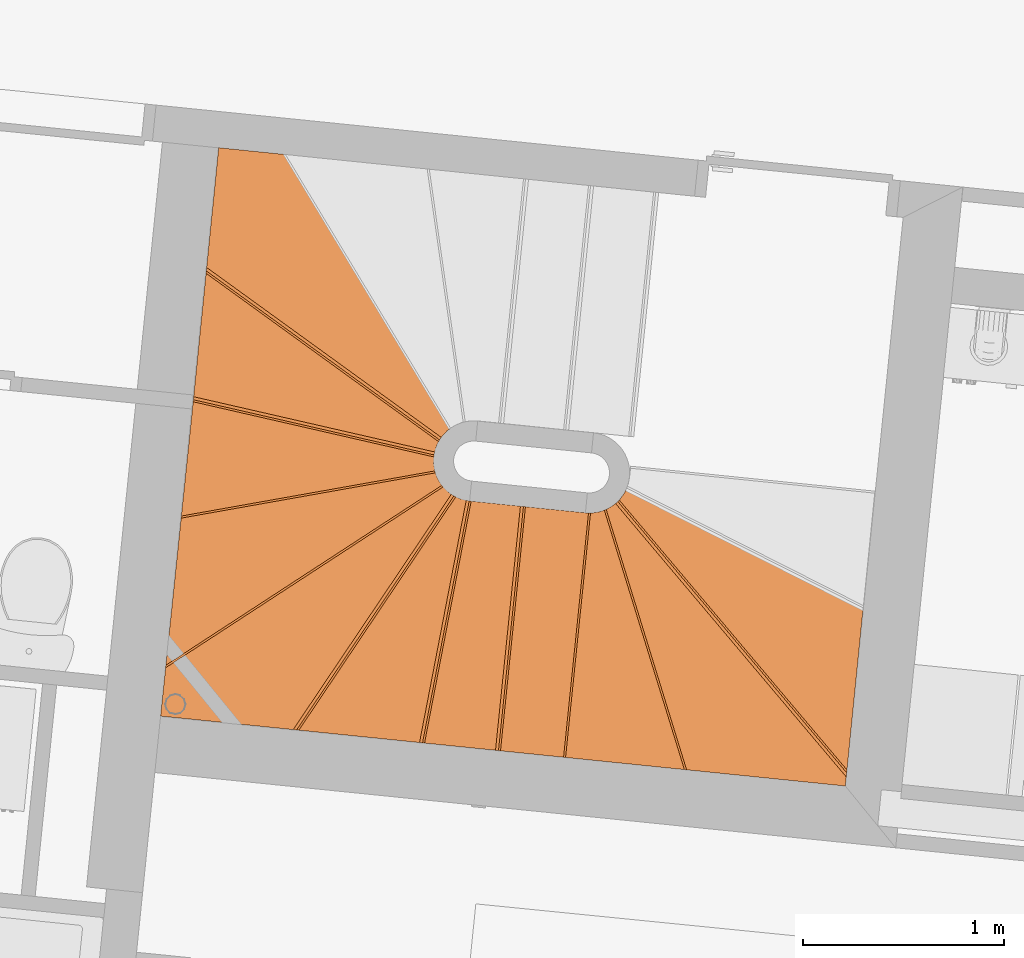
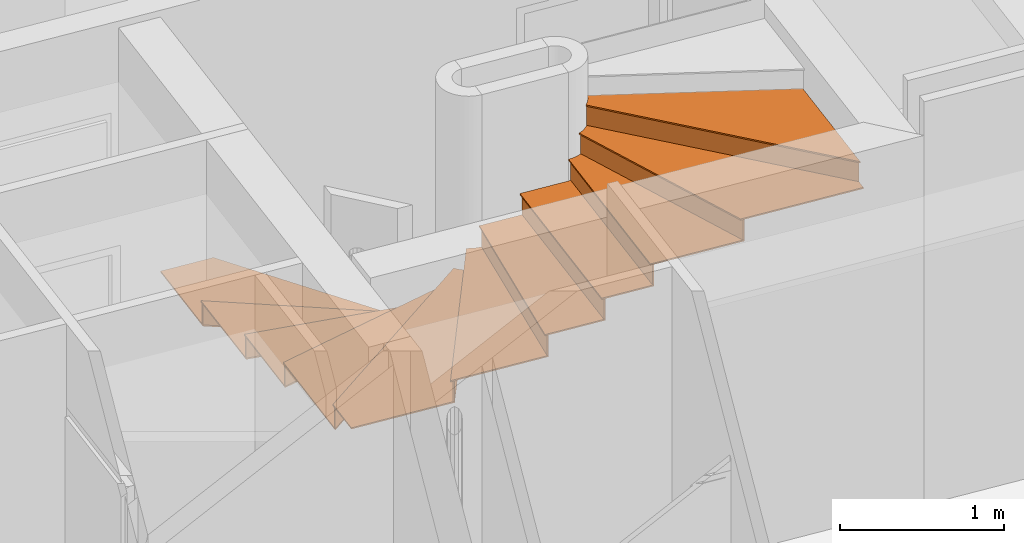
# One storey, part 169 of 171: 21 proxies, 1 element without a shape of its own.
"""IFC2X3 building model written with IfcOpenShell, lengths in millimetres."""

import ifcopenshell
import ifcopenshell.guid

model = None  # the IFC model being written
_history = None  # IfcOwnerHistory: only IFC2X3 demands one
_inside = {}  # id of a spatial element -> (the spatial element, [elements in it])
_under = {}  # id of a project, library or spatial element -> (it, [spatial elements below it])
_declared = {}  # id of a project -> (the project, [libraries it declares])
_typed = {}  # id of a type object -> (the type object, [elements of that type])
_made_of = {}  # id of a material, layer set ... -> (it, [elements and type objects made of it])


def new_model(schema):
    """Start an empty IFC model of exactly this schema.

    Asked for "IFC4X3", IfcOpenShell would pick the latest addendum, in which some entities
    have other attributes; the version numbers below select the first issue.
    IFC2X3 requires an IfcOwnerHistory on every rooted entity: one is made here for all.
    """
    global model, _history
    if schema == "IFC4X3":
        model = ifcopenshell.file(schema_version=(4, 3, 0, 0))
    else:
        model = ifcopenshell.file(schema=schema)
    _inside.clear()
    _under.clear()
    _declared.clear()
    _typed.clear()
    _made_of.clear()
    _history = None
    if model.schema == "IFC2X3":
        org = make("IfcOrganization", Name="unknown")
        user = make(
            "IfcPersonAndOrganization",
            ThePerson=make("IfcPerson", FamilyName="unknown"),
            TheOrganization=org,
        )
        app = make(
            "IfcApplication",
            ApplicationDeveloper=org,
            Version="unknown",
            ApplicationFullName="unknown",
            ApplicationIdentifier="unknown",
        )
        _history = make(
            "IfcOwnerHistory",
            OwningUser=user,
            OwningApplication=app,
            ChangeAction="ADDED",
            CreationDate=0,
        )
    return model


def make(cls, **values):
    """One entity of the class cls with the attributes given. An attribute that is None is left unset."""
    return model.create_entity(
        cls, **{name: value for name, value in values.items() if value is not None}
    )


def entity(cls, *values):
    """Any entity or typed value of the class cls, its attributes in the order of the schema. None: left unset."""
    e = model.create_entity(cls)
    for i, value in enumerate(values):
        if value is not None:
            e[i] = value
    return e


def rooted(cls, **values):
    """An entity with a GlobalId (a new one), such as an element, a storey or a relation."""
    return make(cls, GlobalId=ifcopenshell.guid.new(), OwnerHistory=_history, **values)


def si_unit(unit_type, name, prefix=None):
    """IfcSIUnit, for example si_unit("LENGTHUNIT", "METRE", prefix="MILLI")."""
    return make("IfcSIUnit", UnitType=unit_type, Prefix=prefix, Name=name)


def converted_unit(unit_type, name, factor, base, dimensions=None, offset=None):
    """IfcConversionBasedUnit, such as the inch: factor (a typed value) times the base unit."""
    return make(
        "IfcConversionBasedUnit"
        if offset is None
        else "IfcConversionBasedUnitWithOffset",
        ConversionOffset=offset,
        Dimensions=None
        if dimensions is None
        else entity("IfcDimensionalExponents", *dimensions),
        UnitType=unit_type,
        Name=name,
        ConversionFactor=make(
            "IfcMeasureWithUnit", ValueComponent=factor, UnitComponent=base
        ),
    )


def derived_unit(unit_type, elements):
    """IfcDerivedUnit: a product of units, each with its exponent."""
    return make(
        "IfcDerivedUnit",
        Elements=[
            make("IfcDerivedUnitElement", Unit=unit, Exponent=power)
            for unit, power in elements
        ],
        UnitType=unit_type,
    )


def money_unit(currency):
    """IfcMonetaryUnit."""
    return make("IfcMonetaryUnit", Currency=currency)


def assignment(units):
    """IfcUnitAssignment: the units of a project."""
    return None if units is None else make("IfcUnitAssignment", Units=units)


def point(xyz):
    """IfcCartesianPoint."""
    return None if xyz is None else make("IfcCartesianPoint", Coordinates=xyz)


def direction(xyz):
    """IfcDirection."""
    return None if xyz is None else make("IfcDirection", DirectionRatios=xyz)


def frame(location, z_axis=None, x_axis=None):
    """IfcAxis2Placement3D, a coordinate frame: its origin and axes. An axis left out is left unset."""
    return make(
        "IfcAxis2Placement3D",
        Location=point(location),
        Axis=direction(z_axis),
        RefDirection=direction(x_axis),
    )


def origin_with_axes():
    """The frame at (0, 0, 0) with the z axis (0, 0, 1) and the x axis (1, 0, 0) written out."""
    return frame((0.0, 0.0, 0.0), z_axis=(0.0, 0.0, 1.0), x_axis=(1.0, 0.0, 0.0))


def place(relative_to, where):
    """IfcLocalPlacement: puts the frame where relative to a parent placement (None: the world)."""
    return make(
        "IfcLocalPlacement", PlacementRelTo=relative_to, RelativePlacement=where
    )


def context(
    kind, dimensions, precision=None, world=None, true_north=None, identifier=None
):
    """IfcGeometricRepresentationContext, for example the 3D "Model" context."""
    return make(
        "IfcGeometricRepresentationContext",
        ContextIdentifier=identifier,
        ContextType=kind,
        CoordinateSpaceDimension=dimensions,
        Precision=precision,
        WorldCoordinateSystem=world,
        TrueNorth=true_north,
    )


def subcontext(parent, identifier, kind, view, scale=None):
    """IfcGeometricRepresentationSubContext, for example "Body" below "Model"."""
    return make(
        "IfcGeometricRepresentationSubContext",
        ContextIdentifier=identifier,
        ContextType=kind,
        ParentContext=parent,
        TargetScale=scale,
        TargetView=view,
    )


def project(units=None, contexts=None):
    """IfcProject with its units and contexts."""
    return rooted(
        "IfcProject",
        Name="project",
        RepresentationContexts=contexts,
        UnitsInContext=assignment(units),
    )


def spatial(cls, under=None, at=None, **own):
    """A site, building, storey or space (cls), placed at a placement, below another one or the project."""
    s = rooted(cls, ObjectPlacement=at, **own)
    if under is not None:
        _under.setdefault(under.id(), (under, []))[1].append(s)
    return s


def faces_of(points, faces, orient=None, outer=None):
    """IfcFace entities. A face is a list of loops; a loop is a list of indices into points, from 0.

    orient and outer hold one flag for each loop. By default every Orientation is true, the
    first loop of a face is its IfcFaceOuterBound and the others are IfcFaceBound.
    """
    made = []
    for i, loops in enumerate(faces):
        bounds = []
        for j, loop in enumerate(loops):
            is_outer = j == 0 if outer is None else outer[i][j]
            bounds.append(
                make(
                    "IfcFaceOuterBound" if is_outer else "IfcFaceBound",
                    Bound=make("IfcPolyLoop", Polygon=[points[k] for k in loop]),
                    Orientation=True if orient is None else orient[i][j],
                )
            )
        made.append(make("IfcFace", Bounds=bounds))
    return made


def faceted_brep(points, faces, orient=None, outer=None, voids=None):
    """IfcFacetedBrep: a solid bounded by flat faces; with voids (closed shells), ...WithVoids."""
    shared = [point(p) for p in points]
    hull = make("IfcClosedShell", CfsFaces=faces_of(shared, faces, orient, outer))
    if voids is None:
        return make("IfcFacetedBrep", Outer=hull)
    return make(
        "IfcFacetedBrepWithVoids",
        Outer=hull,
        Voids=[
            make(cls, CfsFaces=faces_of(shared, fs, o, b)) for cls, fs, o, b in voids
        ],
    )


def shape(context_of_items, identifier, shape_type, items):
    """IfcShapeRepresentation: the items that make up one representation, for example the "Body"."""
    return make(
        "IfcShapeRepresentation",
        ContextOfItems=context_of_items,
        RepresentationIdentifier=identifier,
        RepresentationType=shape_type,
        Items=items,
    )


def material(Name=None, Category=None):
    """IfcMaterial."""
    return make("IfcMaterial", Name=Name, Category=Category)


def made_of(thing, what):
    """Note that an element or type object is made of a material, layer set ...; save() writes the relation."""
    if what is not None:
        _made_of.setdefault(what.id(), (what, []))[1].append(thing)
    return thing


def type_object(cls, material=None, **own):
    """A type object (cls), such as IfcWallType, which elements share."""
    return made_of(rooted(cls, **own), material)


def element(
    cls,
    number,
    at=None,
    inside=None,
    cuts=None,
    type_object=None,
    material=None,
    context=None,
    identifier="Body",
    shape_type=None,
    held_by="IfcProductDefinitionShape",
    body=None,
    shapes=None,
    **own,
):
    """One element of the class cls, such as IfcWall. Its Tag is "e" and its number.

    at: its placement. inside: the storey or other place that contains it. cuts: it is an
    opening in that element (IfcRelVoidsElement). A single representation is given by context,
    identifier, shape_type and body (its items); several are given by shapes. held_by: the class
    of the entity that holds the representations. save() writes the other relations.
    """
    e = rooted(cls, Tag="e%d" % number, ObjectPlacement=at, **own)
    if body is not None:
        shapes = [shape(context, identifier, shape_type, body)]
    if shapes is not None:
        e.Representation = make(held_by, Representations=shapes)
    if inside is not None:
        _inside.setdefault(inside.id(), (inside, []))[1].append(e)
    if cuts is not None:
        rooted(
            "IfcRelVoidsElement", RelatingBuildingElement=cuts, RelatedOpeningElement=e
        )
    if type_object is not None:
        _typed.setdefault(type_object.id(), (type_object, []))[1].append(e)
    return made_of(e, material)


def aggregate(whole, parts):
    """IfcRelAggregates: a whole, such as a stair, and the parts it consists of."""
    return rooted("IfcRelAggregates", RelatingObject=whole, RelatedObjects=parts)


def save(model, path):
    """Write the relations noted so far, then the file.

    IfcRelAggregates (storeys below a building ...), IfcRelContainedInSpatialStructure (elements
    in a storey), IfcRelDefinesByType, IfcRelAssociatesMaterial and IfcRelDeclares: one each for
    every whole, place, type object, material and project.
    """
    for whole, parts in _under.values():
        aggregate(whole, parts)
    for where, things in _inside.values():
        rooted(
            "IfcRelContainedInSpatialStructure",
            RelatedElements=things,
            RelatingStructure=where,
        )
    for kind, things in _typed.values():
        rooted("IfcRelDefinesByType", RelatedObjects=things, RelatingType=kind)
    for what, things in _made_of.values():
        rooted("IfcRelAssociatesMaterial", RelatedObjects=things, RelatingMaterial=what)
    for by, libraries in _declared.values():
        rooted("IfcRelDeclares", RelatingContext=by, RelatedDefinitions=libraries)
    model.write(path)


model = new_model("IFC2X3")

# Units and contexts
model_context = context("Model", 3, precision=0.01, world=origin_with_axes(), true_north=direction((0.0, 1.0)))
body_context = subcontext(model_context, "Body", "Model", "MODEL_VIEW")
ifc_project = project(units=[si_unit("LENGTHUNIT", "METRE", prefix="MILLI"), si_unit("AREAUNIT", "SQUARE_METRE"), si_unit("VOLUMEUNIT", "CUBIC_METRE"), converted_unit("PLANEANGLEUNIT", "DEGREE", entity("IfcPlaneAngleMeasure", 0.0174532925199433), si_unit("PLANEANGLEUNIT", "RADIAN"), dimensions=[0, 0, 0, 0, 0, 0, 0]), money_unit("USD"), converted_unit("TIMEUNIT", "Year", entity("IfcTimeMeasure", 31557600.0), si_unit("TIMEUNIT", "SECOND"), dimensions=[0, 0, 1, 0, 0, 0, 0]), si_unit("MASSUNIT", "GRAM", prefix="KILO"), si_unit("THERMODYNAMICTEMPERATUREUNIT", "DEGREE_CELSIUS"), si_unit("LUMINOUSINTENSITYUNIT", "LUMEN"), si_unit("ENERGYUNIT", "JOULE", prefix="MEGA"), derived_unit("THERMALCONDUCTANCEUNIT", [(si_unit("POWERUNIT", "WATT"), 1), (si_unit("LENGTHUNIT", "METRE"), -1), (si_unit("THERMODYNAMICTEMPERATUREUNIT", "KELVIN"), -1)]), derived_unit("SPECIFICHEATCAPACITYUNIT", [(si_unit("ENERGYUNIT", "JOULE"), 1), (si_unit("MASSUNIT", "GRAM", prefix="KILO"), -1), (si_unit("THERMODYNAMICTEMPERATUREUNIT", "KELVIN"), -1)]), derived_unit("MASSDENSITYUNIT", [(si_unit("MASSUNIT", "GRAM", prefix="KILO"), 1), (si_unit("VOLUMEUNIT", "CUBIC_METRE"), -1)])], contexts=[model_context])

# Site, building, storey
site_placement = place(None, origin_with_axes())
site = spatial("IfcSite", under=ifc_project, at=site_placement, Name="Site", CompositionType="ELEMENT")
building_placement = place(site_placement, origin_with_axes())
building = spatial("IfcBuilding", under=site, at=building_placement, Name="Bâtiment", CompositionType="ELEMENT")
storey_placement = place(building_placement, frame((0.0, 0.0, 3000.0), z_axis=(0.0, 0.0, 1.0), x_axis=(1.0, 0.0, 0.0)))
storey = spatial("IfcBuildingStorey", under=building, at=storey_placement, Name="rdc", CompositionType="ELEMENT", Elevation=3000.0)

# Stair, proxies
stair_placement = place(storey_placement, frame((2227388.475510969, -615472.1219328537, 0.0), z_axis=(0.0, 0.0, 1.0), x_axis=(-0.9948232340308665, 0.1016205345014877, 0.0)))
stair = element("IfcStair", 1, at=stair_placement, inside=storey, Name="ESC-020", ShapeType="NOTDEFINED")
ifc_material = material(Name="Lame d'air 275581351")
building_element_proxy_type = type_object("IfcBuildingElementProxyType", Name="IfcBuildingElementProxy", PredefinedType="NOTDEFINED")
proxy_1_placement = place(stair_placement, frame((1479.28594708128, -205.939345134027, 960.588235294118), z_axis=(0.0, 0.0, 1.0), x_axis=(0.8653853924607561, -0.5011068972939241, 0.0)))
proxy_1 = element("IfcBuildingElementProxy", 2, at=proxy_1_placement, type_object=building_element_proxy_type, material=ifc_material, Name="C-MARCHE-337", context=body_context, shape_type="Brep", body=[
    faceted_brep([(821.0010736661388, 14.99999999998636, 0.0), (815.1882107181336, 24.99999999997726, 0.0), (-611.3159759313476, 25.00000000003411, 0.0), (-610.5635345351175, 14.99999999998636, 0.0), (821.0010736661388, 14.99999999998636, -151.764705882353), (815.1882107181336, 24.99999999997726, -151.764705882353), (-611.3159759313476, 25.00000000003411, -151.764705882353), (-610.5635345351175, 14.99999999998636, -151.764705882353)], [[[0, 1, 2, 3]], [[0, 4, 5, 1]], [[1, 5, 6, 2]], [[3, 2, 6, 7]], [[4, 0, 3, 7]], [[5, 4, 7, 6]]]),
])
proxy_2_placement = place(stair_placement, frame((1582.14598069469, 100.163084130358, 1122.35294117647), z_axis=(0.0, 0.0, 1.0), x_axis=(0.9923864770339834, -0.123162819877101, 0.0)))
proxy_2 = element("IfcBuildingElementProxy", 3, at=proxy_2_placement, type_object=building_element_proxy_type, material=ifc_material, Name="C-MARCHE-338", context=body_context, shape_type="Brep", body=[
    faceted_brep([(616.9148624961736, 15.00000000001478, 0.0), (615.6568410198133, 25.00000000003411, 0.0), (-611.3159759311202, 25.00000000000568, 0.0), (-610.5635345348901, 15.0000000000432, 0.0), (616.9148624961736, 15.00000000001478, -151.7647058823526), (615.6568410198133, 25.00000000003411, -151.7647058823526), (-611.3159759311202, 25.00000000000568, -151.7647058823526), (-610.5635345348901, 15.0000000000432, -151.7647058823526)], [[[0, 1, 2, 3]], [[0, 4, 5, 1]], [[1, 5, 6, 2]], [[3, 2, 6, 7]], [[4, 0, 3, 7]], [[5, 4, 7, 6]]]),
])
proxy_3_placement = place(stair_placement, frame((1557.233341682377, 422.1230880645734, 1284.117647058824), z_axis=(0.0, 0.0, 1.0), x_axis=(0.9616268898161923, 0.2743605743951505, 0.0)))
proxy_3 = element("IfcBuildingElementProxy", 4, at=proxy_3_placement, type_object=building_element_proxy_type, material=ifc_material, Name="C-MARCHE-339", context=body_context, shape_type="Brep", body=[
    faceted_brep([(669.3900729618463, 15.00000000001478, 0.0), (672.2592924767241, 25.00000000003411, 0.0), (-611.3159759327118, 25.00000000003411, 0.0), (-610.5635345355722, 14.99999999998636, 0.0), (669.3900729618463, 15.00000000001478, -151.7647058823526), (672.2592924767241, 25.00000000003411, -151.7647058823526), (-611.3159759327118, 25.00000000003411, -151.7647058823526), (-610.5635345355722, 14.99999999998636, -151.7647058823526)], [[[0, 1, 2, 3]], [[0, 4, 5, 1]], [[1, 5, 6, 2]], [[3, 2, 6, 7]], [[4, 0, 3, 7]], [[5, 4, 7, 6]]]),
])
proxy_4_placement = place(stair_placement, frame((1408.508417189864, 708.7583624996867, 1445.882352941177), z_axis=(0.0, 0.0, 1.0), x_axis=(0.7779965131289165, 0.6282685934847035, 0.0)))
proxy_4 = element("IfcBuildingElementProxy", 5, at=proxy_4_placement, type_object=building_element_proxy_type, material=ifc_material, Name="C-MARCHE-340", context=body_context, shape_type="Brep", body=[
    faceted_brep([(1026.802065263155, 15.0000000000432, 0.0), (1034.902198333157, 25.00000000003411, 0.0), (-611.3159759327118, 25.00000000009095, 0.0), (-610.5635345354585, 15.0000000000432, 0.0), (1026.802065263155, 15.0000000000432, -151.7647058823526), (1034.902198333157, 25.00000000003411, -151.7647058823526), (-611.3159759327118, 25.00000000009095, -151.7647058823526), (-610.5635345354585, 15.0000000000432, -151.7647058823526)], [[[0, 1, 2, 3]], [[0, 4, 5, 1]], [[1, 5, 6, 2]], [[3, 2, 6, 7]], [[4, 0, 3, 7]], [[5, 4, 7, 6]]]),
])
proxy_5_placement = place(stair_placement, frame((1159.614157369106, 914.5022108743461, 1607.647058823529), z_axis=(0.0, 0.0, 1.0), x_axis=(0.4706872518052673, 0.8823001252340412, 0.0)))
proxy_5 = element("IfcBuildingElementProxy", 6, at=proxy_5_placement, type_object=building_element_proxy_type, material=ifc_material, Name="C-MARCHE-341", context=body_context, shape_type="Brep", body=[
    faceted_brep([(791.4159478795, 15.00000000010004, 0.0), (786.0811756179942, 25.00000000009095, 0.0), (-611.3159759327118, 25.00000000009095, 0.0), (-610.5635345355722, 14.99999999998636, 0.0), (791.4159478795, 15.00000000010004, -151.7647058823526), (786.0811756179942, 25.00000000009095, -151.7647058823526), (-611.3159759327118, 25.00000000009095, -151.7647058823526), (-610.5635345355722, 14.99999999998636, -151.7647058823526)], [[[0, 1, 2, 3]], [[0, 4, 5, 1]], [[1, 5, 6, 2]], [[3, 2, 6, 7]], [[4, 0, 3, 7]], [[5, 4, 7, 6]]]),
])
proxy_6_placement = place(stair_placement, frame((850.1175319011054, 1006.647327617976, 1769.411764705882), z_axis=(0.0, 0.0, 1.0), x_axis=(0.0885523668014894, 0.9960715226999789, 0.0)))
proxy_6 = element("IfcBuildingElementProxy", 7, at=proxy_6_placement, type_object=building_element_proxy_type, material=ifc_material, Name="C-MARCHE-342", context=body_context, shape_type="Brep", body=[
    faceted_brep([(614.2665554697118, 14.99999999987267, 0.0), (613.3775413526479, 24.99999999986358, 0.0), (-611.3159759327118, 24.99999999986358, 0.0), (-610.563534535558, 14.99999999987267, 0.0), (614.2665554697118, 14.99999999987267, -151.7647058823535), (613.3775413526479, 24.99999999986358, -151.7647058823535), (-611.3159759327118, 24.99999999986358, -151.7647058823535), (-610.563534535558, 14.99999999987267, -151.7647058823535)], [[[0, 1, 2, 3]], [[0, 4, 5, 1]], [[1, 5, 6, 2]], [[3, 2, 6, 7]], [[4, 0, 3, 7]], [[5, 4, 7, 6]]]),
])
proxy_7_placement = place(stair_placement, frame((525.1110302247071, 1009.8291097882, 1931.176470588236), z_axis=(0.0, 0.0, 1.0), x_axis=(2.014278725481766e-07, 0.9999999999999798, 0.0)))
proxy_7 = element("IfcBuildingElementProxy", 8, at=proxy_7_placement, type_object=building_element_proxy_type, material=ifc_material, Name="C-MARCHE-343", context=body_context, shape_type="Brep", body=[
    faceted_brep([(609.9999999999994, 14.99999999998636, 0.0), (610.0000000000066, 24.99999999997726, 0.0), (-610.0000000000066, 24.99999999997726, 0.0), (-609.9999999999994, 14.99999999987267, 0.0), (609.9999999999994, 14.99999999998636, -151.7647058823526), (610.0000000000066, 24.99999999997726, -151.7647058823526), (-610.0000000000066, 24.99999999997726, -151.7647058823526), (-609.9999999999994, 14.99999999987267, -151.7647058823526)], [[[0, 1, 2, 3]], [[0, 4, 5, 1]], [[1, 5, 6, 2]], [[3, 2, 6, 7]], [[4, 0, 3, 7]], [[5, 4, 7, 6]]]),
])
proxy_8_placement = place(stair_placement, frame((200.0104641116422, 1009.829175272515, 2092.941176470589), z_axis=(0.0, 0.0, 1.0), x_axis=(2.014278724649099e-07, 0.9999999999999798, 0.0)))
proxy_8 = element("IfcBuildingElementProxy", 9, at=proxy_8_placement, type_object=building_element_proxy_type, material=ifc_material, Name="C-MARCHE-344", context=body_context, shape_type="Brep", body=[
    faceted_brep([(609.9999927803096, 15.00000000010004, 0.0), (609.9999879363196, 25.00000000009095, 0.0), (-611.3039816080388, 25.00000000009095, 0.0), (-610.5563633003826, 15.00000000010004, 0.0), (609.9999927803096, 15.00000000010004, -151.7647058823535), (609.9999879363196, 25.00000000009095, -151.7647058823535), (-611.3039816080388, 25.00000000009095, -151.7647058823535), (-610.5563633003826, 15.00000000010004, -151.7647058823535)], [[[0, 1, 2, 3]], [[0, 4, 5, 1]], [[1, 5, 6, 2]], [[3, 2, 6, 7]], [[4, 0, 3, 7]], [[5, 4, 7, 6]]]),
])
proxy_9_placement = place(stair_placement, frame((-116.4375896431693, 945.4901224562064, 2254.705882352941), z_axis=(0.0, 0.0, 1.0), x_axis=(-0.3905995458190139, 0.9205606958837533, 0.0)))
proxy_9 = element("IfcBuildingElementProxy", 10, at=proxy_9_placement, type_object=building_element_proxy_type, material=ifc_material, Name="C-MARCHE-345", context=body_context, shape_type="Brep", body=[
    faceted_brep([(738.8951906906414, 14.99999999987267, 0.0), (743.1382486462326, 24.99999999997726, 0.0), (-611.3159759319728, 24.99999999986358, 0.0), (-610.5635345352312, 14.99999999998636, 0.0), (738.8951906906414, 14.99999999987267, -151.7647058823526), (743.1382486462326, 24.99999999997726, -151.7647058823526), (-611.3159759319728, 24.99999999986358, -151.7647058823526), (-610.5635345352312, 14.99999999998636, -151.7647058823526)], [[[0, 1, 2, 3]], [[0, 4, 5, 1]], [[1, 5, 6, 2]], [[3, 2, 6, 7]], [[4, 0, 3, 7]], [[5, 4, 7, 6]]]),
])
proxy_10_placement = place(stair_placement, frame((-382.5948050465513, 762.6261828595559, 2416.470588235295), z_axis=(0.0, 0.0, 1.0), x_axis=(-0.7192233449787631, 0.6947789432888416, 0.0)))
proxy_10 = element("IfcBuildingElementProxy", 11, at=proxy_10_placement, type_object=building_element_proxy_type, material=ifc_material, Name="C-MARCHE-346", context=body_context, shape_type="Brep", body=[
    faceted_brep([(1153.599827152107, 14.99999999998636, 0.0), (1143.900879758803, 24.99999999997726, 0.0), (-611.315975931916, 24.99999999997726, 0.0), (-610.5635345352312, 14.99999999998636, 0.0), (1153.599827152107, 14.99999999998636, -151.7647058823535), (1143.900879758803, 24.99999999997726, -151.7647058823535), (-611.315975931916, 24.99999999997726, -151.7647058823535), (-610.5635345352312, 14.99999999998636, -151.7647058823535)], [[[0, 1, 2, 3]], [[0, 4, 5, 1]], [[1, 5, 6, 2]], [[3, 2, 6, 7]], [[4, 0, 3, 7]], [[5, 4, 7, 6]]]),
])
proxy_11_placement = place(stair_placement, frame((1265.005003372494, -447.5227900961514, 808.8235294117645), z_axis=(0.0, 0.0, 1.0), x_axis=(0.600813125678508, -0.7993895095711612, 0.0)))
proxy_11 = element("IfcBuildingElementProxy", 12, at=proxy_11_placement, type_object=building_element_proxy_type, material=ifc_material, Name="MARCHE-336", context=body_context, shape_type="Brep", body=[
    faceted_brep([(-609.9999999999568, 0.0, -9.999999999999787), (966.3343994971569, 0.0, -9.999999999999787), (966.3343994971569, 0.0, 0.0), (-609.9999999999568, 0.0, 0.0), (-613.0741059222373, 34.92373452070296, -9.999999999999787), (-622.2018820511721, 68.77341787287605, -9.999999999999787), (-637.1026110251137, 100.5080304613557, -9.999999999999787), (676.2483896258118, 657.9541897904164, -9.999999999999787), (1178.253624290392, 281.9611071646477, -9.999999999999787), (1178.253624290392, 281.9611071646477, 0.0), (676.2483896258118, 657.9541897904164, 0.0), (-637.1026110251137, 100.5080304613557, 0.0), (-622.2018820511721, 68.77341787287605, 0.0), (-613.0741059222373, 34.92373452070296, 0.0)], [[[0, 1, 2, 3]], [[0, 4, 5, 6, 7, 8, 1]], [[1, 8, 9, 2]], [[3, 2, 9, 10, 11, 12, 13]], [[4, 0, 3, 13]], [[5, 4, 13, 12]], [[6, 5, 12, 11]], [[7, 6, 11, 10]], [[8, 7, 10, 9]]]),
])
proxy_12_placement = place(stair_placement, frame((1479.28594708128, -205.939345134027, 970.5882352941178), z_axis=(0.0, 0.0, 1.0), x_axis=(0.8653853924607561, -0.5011068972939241, 0.0)))
proxy_12 = element("IfcBuildingElementProxy", 13, at=proxy_12_placement, type_object=building_element_proxy_type, material=ifc_material, Name="MARCHE-337", context=body_context, shape_type="Brep", body=[
    faceted_brep([(-610.0000000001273, 0.0, -9.999999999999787), (829.7203680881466, 0.0, -9.999999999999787), (829.7203680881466, 0.0, 0.0), (-610.0000000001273, 0.0, 0.0), (-615.4656237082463, 46.42674873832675, -9.999999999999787), (-631.5636368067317, 90.31490221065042, -9.999999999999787), (-637.1026110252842, 100.5080304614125, -9.999999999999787), (492.5768707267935, 579.995606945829, -9.999999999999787), (492.5768707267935, 579.995606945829, 0.0), (-637.1026110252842, 100.5080304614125, 0.0), (-631.5636368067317, 90.31490221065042, 0.0), (-615.4656237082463, 46.42674873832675, 0.0)], [[[0, 1, 2, 3]], [[0, 4, 5, 6, 7, 1]], [[1, 7, 8, 2]], [[3, 2, 8, 9, 10, 11]], [[4, 0, 3, 11]], [[5, 4, 11, 10]], [[6, 5, 10, 9]], [[7, 6, 9, 8]]]),
])
proxy_13_placement = place(stair_placement, frame((1582.14598069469, 100.163084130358, 1132.352941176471), z_axis=(0.0, 0.0, 1.0), x_axis=(0.9923864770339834, -0.123162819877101, 0.0)))
proxy_13 = element("IfcBuildingElementProxy", 14, at=proxy_13_placement, type_object=building_element_proxy_type, material=ifc_material, Name="MARCHE-338", context=body_context, shape_type="Brep", body=[
    faceted_brep([(-609.9999999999, 0.0, -9.999999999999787), (618.8018947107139, 0.0, -9.999999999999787), (618.8018947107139, 0.0, 0.0), (-609.9999999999, 0.0, 0.0), (-610.4531617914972, 13.45295387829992, -9.999999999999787), (-618.7562293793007, 58.51773040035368, -9.999999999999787), (-637.1026110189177, 100.5080304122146, -9.999999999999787), (544.6802479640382, 602.1106604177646, -9.999999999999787), (606.7813705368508, 95.55102515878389, -9.999999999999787), (606.7813705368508, 95.55102515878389, 0.0), (544.6802479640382, 602.1106604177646, 0.0), (-637.1026110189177, 100.5080304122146, 0.0), (-618.7562293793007, 58.51773040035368, 0.0), (-610.4531617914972, 13.45295387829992, 0.0)], [[[0, 1, 2, 3]], [[0, 4, 5, 6, 7, 8, 1]], [[1, 8, 9, 2]], [[3, 2, 9, 10, 11, 12, 13]], [[4, 0, 3, 13]], [[5, 4, 13, 12]], [[6, 5, 12, 11]], [[7, 6, 11, 10]], [[8, 7, 10, 9]]]),
])
proxy_14_placement = place(stair_placement, frame((1408.508417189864, 708.7583624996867, 1455.882352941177), z_axis=(0.0, 0.0, 1.0), x_axis=(0.7779965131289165, 0.6282685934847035, 0.0)))
proxy_14 = element("IfcBuildingElementProxy", 15, at=proxy_14_placement, type_object=building_element_proxy_type, material=ifc_material, Name="MARCHE-340", context=body_context, shape_type="Brep", body=[
    faceted_brep([(-609.9999999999, 0.0, -9.999999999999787), (1014.651865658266, 0.0, -9.999999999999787), (1014.651865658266, 0.0, 0.0), (-609.9999999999, 0.0, 0.0), (-613.0741059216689, 34.92373449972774, -9.999999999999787), (-622.2018820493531, 68.77341783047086, -9.999999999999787), (-637.1026110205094, 100.5080303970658, -9.999999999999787), (649.4549417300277, 646.5818266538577, -9.999999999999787), (1186.861356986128, 212.6008175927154, -9.999999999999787), (1186.861356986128, 212.6008175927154, 0.0), (649.4549417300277, 646.5818266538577, 0.0), (-637.1026110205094, 100.5080303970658, 0.0), (-622.2018820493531, 68.77341783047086, 0.0), (-613.0741059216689, 34.92373449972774, 0.0)], [[[0, 1, 2, 3]], [[0, 4, 5, 6, 7, 8, 1]], [[1, 8, 9, 2]], [[3, 2, 9, 10, 11, 12, 13]], [[4, 0, 3, 13]], [[5, 4, 13, 12]], [[6, 5, 12, 11]], [[7, 6, 11, 10]], [[8, 7, 10, 9]]]),
])
proxy_15_placement = place(stair_placement, frame((1159.614157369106, 914.5022108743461, 1617.647058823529), z_axis=(0.0, 0.0, 1.0), x_axis=(0.4706872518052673, 0.8823001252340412, 0.0)))
proxy_15 = element("IfcBuildingElementProxy", 16, at=proxy_15_placement, type_object=building_element_proxy_type, material=ifc_material, Name="MARCHE-341", context=body_context, shape_type="Brep", body=[
    faceted_brep([(-610.0000000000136, 1.13686837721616e-10, -9.999999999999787), (799.4181062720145, 0.0, -9.999999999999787), (799.4181062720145, 0.0, 0.0), (-610.0000000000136, 1.13686837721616e-10, 0.0), (-615.9716663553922, 48.49727697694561, -9.999999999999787), (-633.5299051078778, 94.09722133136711, -9.999999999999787), (-636.9781155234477, 100.5608719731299, -9.999999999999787), (490.4787422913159, 579.1050654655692, -9.999999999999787), (490.4787422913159, 579.1050654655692, 0.0), (-636.9781155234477, 100.5608719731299, 0.0), (-633.5299051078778, 94.09722133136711, 0.0), (-615.9716663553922, 48.49727697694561, 0.0)], [[[0, 1, 2, 3]], [[0, 4, 5, 6, 7, 1]], [[1, 7, 8, 2]], [[3, 2, 8, 9, 10, 11]], [[4, 0, 3, 11]], [[5, 4, 11, 10]], [[6, 5, 10, 9]], [[7, 6, 9, 8]]]),
])
proxy_16_placement = place(stair_placement, frame((1557.233341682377, 422.1230880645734, 1294.117647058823), z_axis=(0.0, 0.0, 1.0), x_axis=(0.9616268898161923, 0.2743605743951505, 0.0)))
proxy_16 = element("IfcBuildingElementProxy", 17, at=proxy_16_placement, type_object=building_element_proxy_type, material=ifc_material, Name="MARCHE-339", context=body_context, shape_type="Brep", body=[
    faceted_brep([(-610.0000000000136, 0.0, -9.999999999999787), (665.0862436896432, 0.0, -9.999999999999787), (665.0862436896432, 0.0, 0.0), (-610.0000000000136, 0.0, 0.0), (-613.0741059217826, 34.92373449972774, -9.999999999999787), (-622.2018820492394, 68.77341783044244, -9.999999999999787), (-637.1026110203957, 100.5080303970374, -9.999999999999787), (878.4983008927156, 743.798291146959, -9.999999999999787), (878.4983008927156, 743.798291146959, 0.0), (-637.1026110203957, 100.5080303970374, 0.0), (-622.2018820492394, 68.77341783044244, 0.0), (-613.0741059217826, 34.92373449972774, 0.0)], [[[0, 1, 2, 3]], [[0, 4, 5, 6, 7, 1]], [[1, 7, 8, 2]], [[3, 2, 8, 9, 10, 11]], [[4, 0, 3, 11]], [[5, 4, 11, 10]], [[6, 5, 10, 9]], [[7, 6, 9, 8]]]),
])
proxy_17_placement = place(stair_placement, frame((850.1175319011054, 1006.647327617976, 1779.411764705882), z_axis=(0.0, 0.0, 1.0), x_axis=(0.0885523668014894, 0.9960715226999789, 0.0)))
proxy_17 = element("IfcBuildingElementProxy", 18, at=proxy_17_placement, type_object=building_element_proxy_type, material=ifc_material, Name="MARCHE-342", context=body_context, shape_type="Brep", body=[
    faceted_brep([(-609.9999999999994, -1.13686837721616e-10, -9.999999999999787), (615.6000766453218, 0.0, -9.999999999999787), (615.6000766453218, 0.0, 0.0), (-609.9999999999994, -1.13686837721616e-10, 0.0), (-610.7853563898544, 17.70287107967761, -9.999999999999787), (-635.4282562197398, 294.896442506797, -9.999999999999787), (579.7790232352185, 402.9300852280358, -9.999999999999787), (604.4219230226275, 125.7365142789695, -9.999999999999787), (604.4219230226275, 125.7365142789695, 0.0), (579.7790232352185, 402.9300852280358, 0.0), (-635.4282562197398, 294.896442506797, 0.0), (-610.7853563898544, 17.70287107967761, 0.0)], [[[0, 1, 2, 3]], [[0, 4, 5, 6, 7, 1]], [[1, 7, 8, 2]], [[3, 2, 8, 9, 10, 11]], [[4, 0, 3, 11]], [[5, 4, 11, 10]], [[6, 5, 10, 9]], [[7, 6, 9, 8]]]),
])
proxy_18_placement = place(stair_placement, frame((525.1110302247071, 1009.8291097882, 1941.176470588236), z_axis=(0.0, 0.0, 1.0), x_axis=(2.014278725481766e-07, 0.9999999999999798, 0.0)))
proxy_18 = element("IfcBuildingElementProxy", 19, at=proxy_18_placement, type_object=building_element_proxy_type, material=ifc_material, Name="MARCHE-343", context=body_context, shape_type="Brep", body=[
    faceted_brep([(-609.9999999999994, -1.13686837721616e-10, -9.999999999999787), (609.9999999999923, 0.0, -9.999999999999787), (609.9999999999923, 0.0, 0.0), (-609.9999999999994, -1.13686837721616e-10, 0.0), (-609.9999999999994, 325.1962593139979, -9.999999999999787), (-611.5572991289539, 350.1005661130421, -9.999999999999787), (609.9999879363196, 350.1005661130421, -9.999999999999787), (609.9999999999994, 325.1961787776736, -9.999999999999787), (609.9999999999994, 325.1961787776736, 0.0), (609.9999879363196, 350.1005661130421, 0.0), (-611.5572991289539, 350.1005661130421, 0.0), (-609.9999999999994, 325.1962593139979, 0.0)], [[[0, 1, 2, 3]], [[0, 4, 5, 6, 7, 1]], [[1, 7, 8, 2]], [[3, 2, 8, 9, 10, 11]], [[4, 0, 3, 11]], [[5, 4, 11, 10]], [[6, 5, 10, 9]], [[7, 6, 9, 8]]]),
])
proxy_19_placement = place(stair_placement, frame((-382.5948050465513, 762.6261828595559, 2426.470588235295), z_axis=(0.0, 0.0, 1.0), x_axis=(-0.7192233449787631, 0.6947789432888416, 0.0)))
proxy_19 = element("IfcBuildingElementProxy", 20, at=proxy_19_placement, type_object=building_element_proxy_type, material=ifc_material, Name="MARCHE-346", context=body_context, shape_type="Brep", body=[
    faceted_brep([(-610.0000000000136, 0.0, -9.999999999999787), (1168.148248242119, 0.0, -9.999999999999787), (1168.148248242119, 0.0, 0.0), (-610.0000000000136, 0.0, 0.0), (-613.07410592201, 34.92373450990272, -9.999999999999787), (-622.2018820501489, 68.77341785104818, -9.999999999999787), (-637.1026110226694, 100.5080304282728, -9.999999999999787), (572.6500316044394, 613.9823142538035, -9.999999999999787), (572.6500316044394, 613.9823142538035, 0.0), (-637.1026110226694, 100.5080304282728, 0.0), (-622.2018820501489, 68.77341785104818, 0.0), (-613.07410592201, 34.92373450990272, 0.0)], [[[0, 1, 2, 3]], [[0, 4, 5, 6, 7, 1]], [[1, 7, 8, 2]], [[3, 2, 8, 9, 10, 11]], [[4, 0, 3, 11]], [[5, 4, 11, 10]], [[6, 5, 10, 9]], [[7, 6, 9, 8]]]),
])
proxy_20_placement = place(stair_placement, frame((-116.4375896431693, 945.4901224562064, 2264.705882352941), z_axis=(0.0, 0.0, 1.0), x_axis=(-0.3905995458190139, 0.9205606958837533, 0.0)))
proxy_20 = element("IfcBuildingElementProxy", 21, at=proxy_20_placement, type_object=building_element_proxy_type, material=ifc_material, Name="MARCHE-345", context=body_context, shape_type="Brep", body=[
    faceted_brep([(-609.9999999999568, 0.0, -9.999999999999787), (732.5306037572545, -1.13686837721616e-10, -9.999999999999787), (732.5306037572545, -1.13686837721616e-10, 0.0), (-609.9999999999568, 0.0, 0.0), (-613.0741059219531, 34.92373450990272, -9.999999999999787), (-622.2018820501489, 68.77341785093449, -9.999999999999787), (-637.1026110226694, 100.5080304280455, -9.999999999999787), (978.833167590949, 786.3849918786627, -9.999999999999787), (1052.932155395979, 755.1194327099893, -9.999999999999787), (1052.932155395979, 755.1194327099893, 0.0), (978.833167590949, 786.3849918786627, 0.0), (-637.1026110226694, 100.5080304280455, 0.0), (-622.2018820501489, 68.77341785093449, 0.0), (-613.0741059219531, 34.92373450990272, 0.0)], [[[0, 1, 2, 3]], [[0, 4, 5, 6, 7, 8, 1]], [[1, 8, 9, 2]], [[3, 2, 9, 10, 11, 12, 13]], [[4, 0, 3, 13]], [[5, 4, 13, 12]], [[6, 5, 12, 11]], [[7, 6, 11, 10]], [[8, 7, 10, 9]]]),
])
proxy_21_placement = place(stair_placement, frame((200.0104641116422, 1009.829175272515, 2102.941176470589), z_axis=(0.0, 0.0, 1.0), x_axis=(2.014278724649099e-07, 0.9999999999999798, 0.0)))
proxy_21 = element("IfcBuildingElementProxy", 22, at=proxy_21_placement, type_object=building_element_proxy_type, material=ifc_material, Name="MARCHE-344", context=body_context, shape_type="Brep", body=[
    faceted_brep([(-609.9999999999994, 0.0, -9.999999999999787), (609.9999999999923, 1.13686837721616e-10, -9.999999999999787), (609.9999999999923, 1.13686837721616e-10, 0.0), (-609.9999999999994, 0.0, 0.0), (-609.9999999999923, 0.09569320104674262, -9.999999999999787), (-613.0727411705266, 35.01165415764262, -9.999999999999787), (-622.1964792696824, 68.85428217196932, -9.999999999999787), (-637.0907469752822, 100.5832414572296, -9.999999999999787), (609.9996950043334, 629.7316564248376, -9.999999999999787), (609.9999999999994, 0.09561266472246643, -9.999999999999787), (609.9999999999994, 0.09561266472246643, 0.0), (609.9996950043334, 629.7316564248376, 0.0), (-637.0907469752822, 100.5832414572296, 0.0), (-622.1964792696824, 68.85428217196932, 0.0), (-613.0727411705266, 35.01165415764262, 0.0), (-609.9999999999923, 0.09569320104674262, 0.0)], [[[0, 1, 2, 3]], [[0, 4, 5, 6, 7, 8, 9, 1]], [[1, 9, 10, 2]], [[3, 2, 10, 11, 12, 13, 14, 15]], [[4, 0, 3, 15]], [[5, 4, 15, 14]], [[6, 5, 14, 13]], [[7, 6, 13, 12]], [[8, 7, 12, 11]], [[9, 8, 11, 10]]]),
])
aggregate(stair, [proxy_1, proxy_2, proxy_3, proxy_4, proxy_5, proxy_6, proxy_7, proxy_8, proxy_9, proxy_10, proxy_11, proxy_12, proxy_13, proxy_14, proxy_15, proxy_16, proxy_17, proxy_18, proxy_19, proxy_20, proxy_21])

save(model, "model.ifc")
